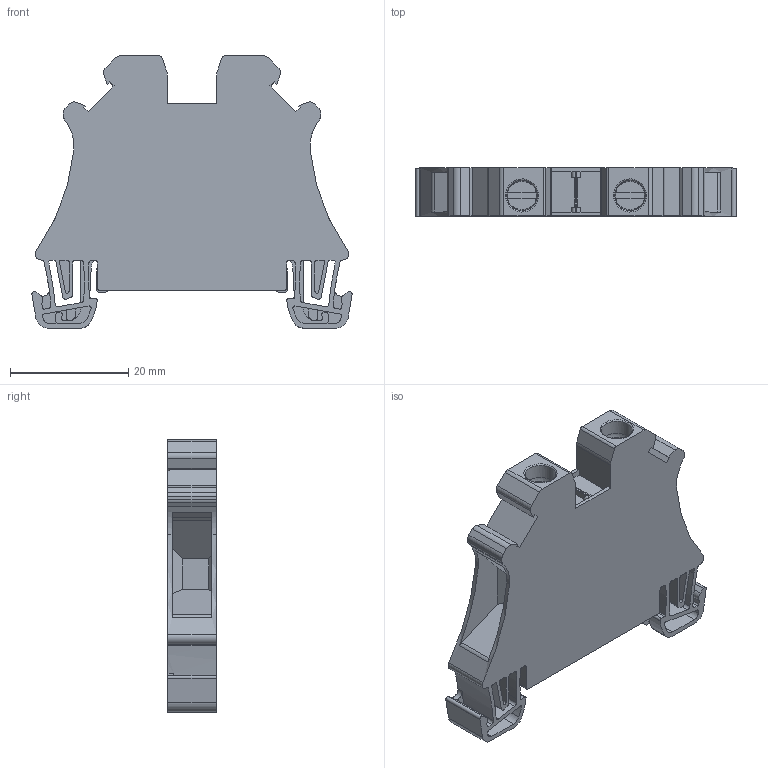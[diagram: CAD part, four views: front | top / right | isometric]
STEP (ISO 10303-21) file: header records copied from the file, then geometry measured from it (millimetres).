
FILE_DESCRIPTION( ('This file contains a STEP AP42 implementation' ,'as created by ZW3D STEP Interface translator.') ,'2;1' );
FILE_NAME( 'RUT6-PE傷赽耀倰.stp' ,'23 4 7.164226', (''), ('ZWCAD Software Co.'), 'Version 1.0', 'ZW3D to STEP translator', '' );
FILE_SCHEMA(('AUTOMOTIVE_DESIGN { 1 0 10303 214 1 1 1 1 }'));
Length unit declared in the file: millimetre
Products named in the file (2): 0; RUT6-PE
Bounding box: 54.13 x 8.15 x 46 mm (x, y, z)
Volume: 11579.6 mm3; surface area: 7419.6 mm2
Topology: 1 solids, 1 shells, 388 faces, 1155 edges, 771 vertices
Faces by surface type: plane 195, cylinder 183, bspline 6, cone 2, torus 2
Full cylindrical faces by diameter (mm): 5 x2, 5.2 x4
Entity records: 14834 total; most frequent: CARTESIAN_POINT 3679, ORIENTED_EDGE 2310, DIRECTION 2268, EDGE_CURVE 1155, AXIS2_PLACEMENT_3D 774, VERTEX_POINT 771, VECTOR 720, LINE 720
